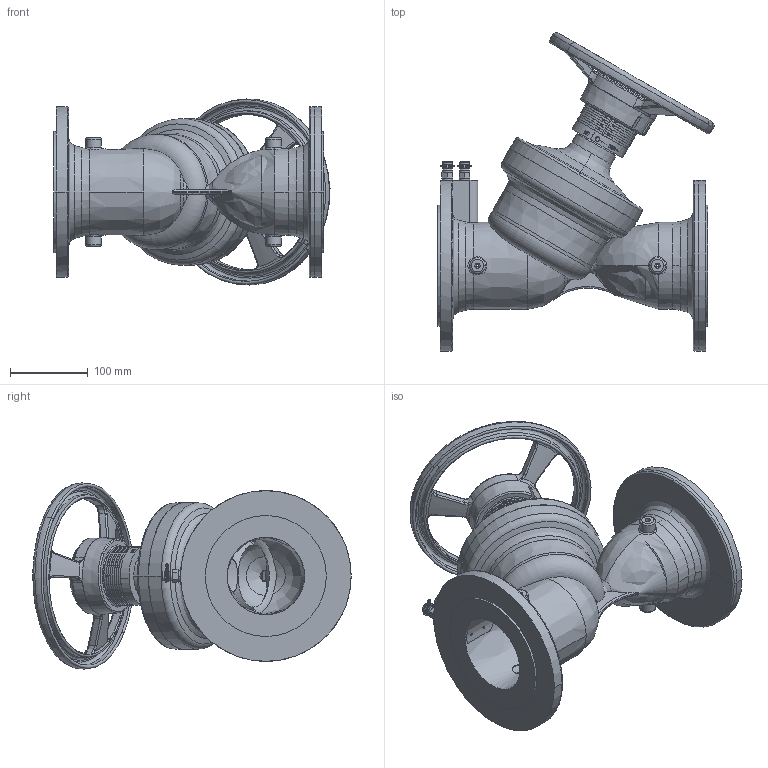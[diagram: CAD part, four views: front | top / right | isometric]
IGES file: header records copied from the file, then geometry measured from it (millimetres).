
Global section: file name: No Iges File Name specified; native system: AutoDesk Inventor R12.0; preprocessor: AutoDesk Inventor Iges Exporter R12.0; date: 20110225.151405; units: millimetre
Bounding box: 355.9 x 410.31 x 239.95 mm (x, y, z)
Volume: 3495324 mm3; surface area: 678246.4 mm2
Topology: 1 solids, 1 shells, 1079 faces, 2821 edges, 1801 vertices
Faces by surface type: plane 385, bspline 314, cylinder 135, revolution 131, torus 57, cone 57
